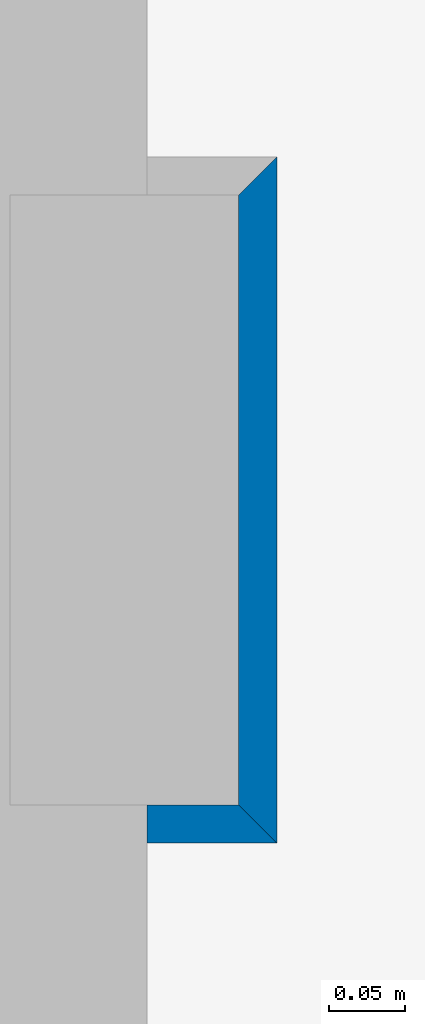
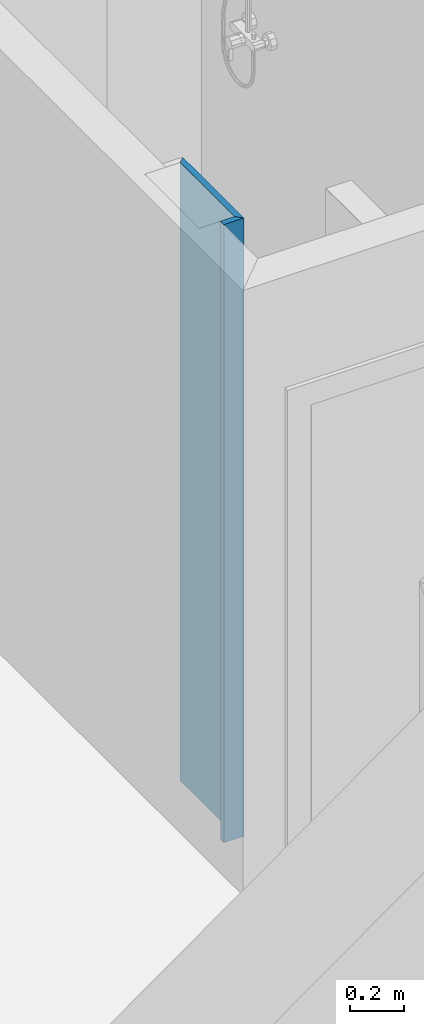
# One storey, part 12 of 24: 2 walls.
"""IFC2X3 building model written with IfcOpenShell, lengths in millimetres."""

from ifc_helpers import new_model, entity, si_unit, converted_unit, money_unit, direction, frame, origin_with_axes, place, context, subcontext, project, spatial, polyline, outline, extrude, material, layer, layer_set, layer_usage, type_object, element, save


model = new_model("IFC2X3")

# Units and contexts
model_context = context("Model", 3, precision=1e-05, world=origin_with_axes(), true_north=direction((0.0, 1.0)))
body_context = subcontext(model_context, "Body", "Model", "MODEL_VIEW")
ifc_project = project(units=[si_unit("LENGTHUNIT", "METRE", prefix="MILLI"), si_unit("AREAUNIT", "SQUARE_METRE"), si_unit("VOLUMEUNIT", "CUBIC_METRE"), converted_unit("PLANEANGLEUNIT", "DEGREE", entity("IfcPlaneAngleMeasure", 0.0174532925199), si_unit("PLANEANGLEUNIT", "RADIAN"), dimensions=[0, 0, 0, 0, 0, 0, 0]), si_unit("SOLIDANGLEUNIT", "STERADIAN"), money_unit("USD"), converted_unit("TIMEUNIT", "Year", entity("IfcTimeMeasure", 31556926.0), si_unit("TIMEUNIT", "SECOND"), dimensions=[0, 0, 0, 0, 0, 0, 0]), si_unit("MASSUNIT", "GRAM"), si_unit("THERMODYNAMICTEMPERATUREUNIT", "DEGREE_CELSIUS"), si_unit("LUMINOUSINTENSITYUNIT", "LUMEN")], contexts=[model_context])

# Site, building, storey
site_placement = place(None, origin_with_axes())
site = spatial("IfcSite", under=ifc_project, at=site_placement, Name="Grove Residential", CompositionType="ELEMENT")
building_placement = place(site_placement, origin_with_axes())
building = spatial("IfcBuilding", under=site, at=building_placement, Name="Building", CompositionType="ELEMENT")
storey_placement = place(building_placement, frame((0.0, 0.0, 3740.0), z_axis=(0.0, 0.0, 1.0), x_axis=(1.0, 0.0, 0.0)))
storey = spatial("IfcBuildingStorey", under=building, at=storey_placement, Name="First Floor", CompositionType="ELEMENT", Elevation=3740.0)

# Walls
ifc_material_1 = material(Name="Wall Tiles")
ifc_layer_1 = layer(ifc_material_1, 12.5, ventilated="UNKNOWN")
ifc_material_2 = material(Name="Gypsum Plasterboard")
ifc_layer_2 = layer(ifc_material_2, 12.5, ventilated="UNKNOWN")
ifc_layer_set = layer_set([ifc_layer_1, ifc_layer_2], Name="IF-002")
ifc_layer_usage_1 = layer_usage(ifc_layer_set, "AXIS2", "POSITIVE", -25.0)
wall_type = type_object("IfcWallType", Name="IF-002 25", PredefinedType="NOTDEFINED")
wall_1_placement = place(storey_placement, frame((9975.0, 3549.99996722, -60.0), z_axis=(0.0, 0.0, 1.0), x_axis=(1.0, 0.0, 0.0)))
element("IfcWallStandardCase", 1, at=wall_1_placement, inside=storey, type_object=wall_type, material=ifc_layer_usage_1, Name="SW - 006", context=body_context, shape_type="SweptSolid", body=[
    extrude(outline(polyline([(150.0, -25.0), (234.999905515, -25.0), (209.999905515, 0.0), (150.0, 0.0), (150.0, -25.0)])), origin_with_axes(), (0.0, 0.0, 1.0), 2770.0),
])
ifc_layer_usage_2 = layer_usage(ifc_layer_set, "AXIS2", "POSITIVE", -25.0)
wall_2_placement = place(storey_placement, frame((10184.9999055, 3549.99996722, -60.0), z_axis=(0.0, 0.0, 1.0), x_axis=(0.0, 1.0, 0.0)))
element("IfcWallStandardCase", 2, at=wall_2_placement, inside=storey, type_object=wall_type, material=ifc_layer_usage_2, Name="SW - 007", context=body_context, shape_type="SweptSolid", body=[
    extrude(outline(polyline([(-25.0, -25.0), (425.0, -25.0), (400.0, 0.0), (0.0, 0.0), (-25.0, -25.0)])), origin_with_axes(), (0.0, 0.0, 1.0), 2770.0),
])

save(model, "model.ifc")
